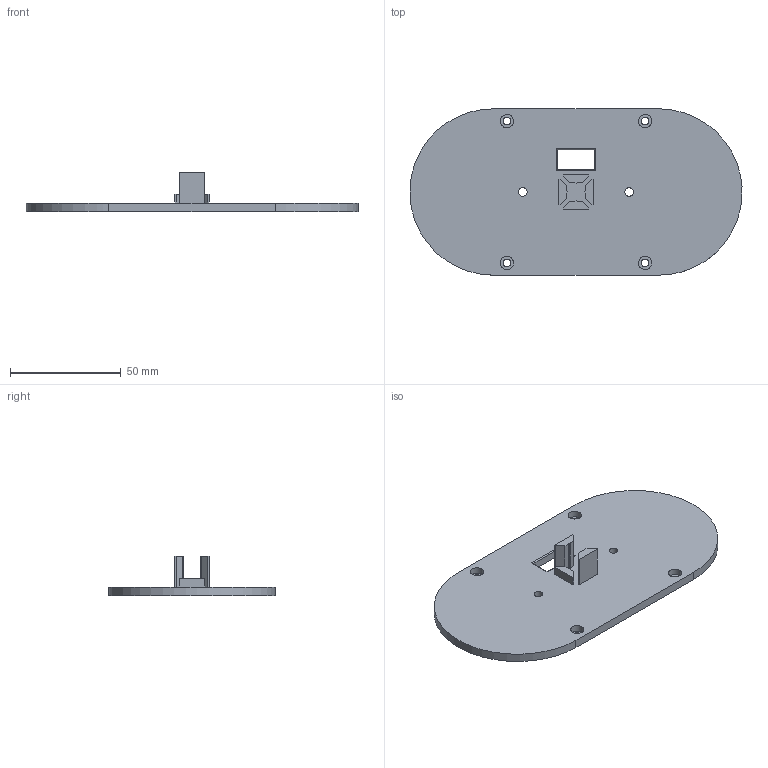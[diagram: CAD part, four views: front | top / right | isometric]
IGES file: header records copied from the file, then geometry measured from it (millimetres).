
Global section: file name: base_lid v24; native system: unknown; preprocessor: unknown; author: unknown; organization: unknown; date: 20200329.203029; units: millimetre
Bounding box: 149.86 x 75 x 18 mm (x, y, z)
Volume: 40312.1 mm3; surface area: 22740.5 mm2
Topology: 1 solids, 1 shells, 68 faces, 170 edges, 112 vertices
Faces by surface type: bspline 68
